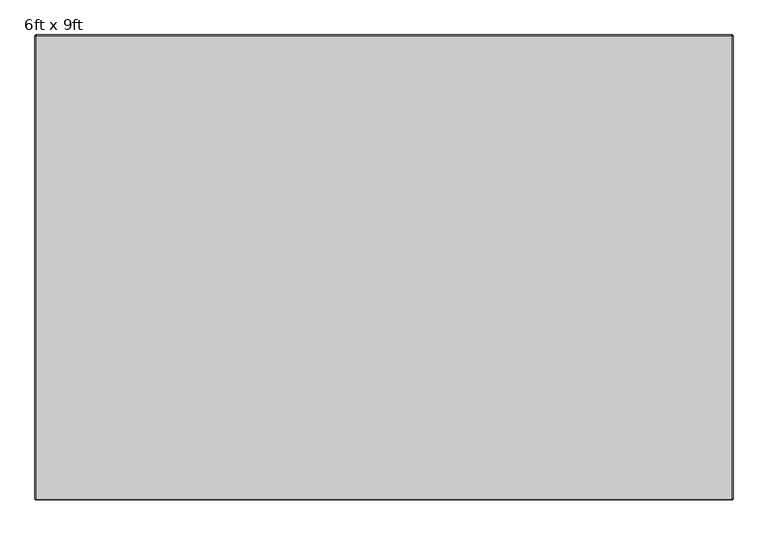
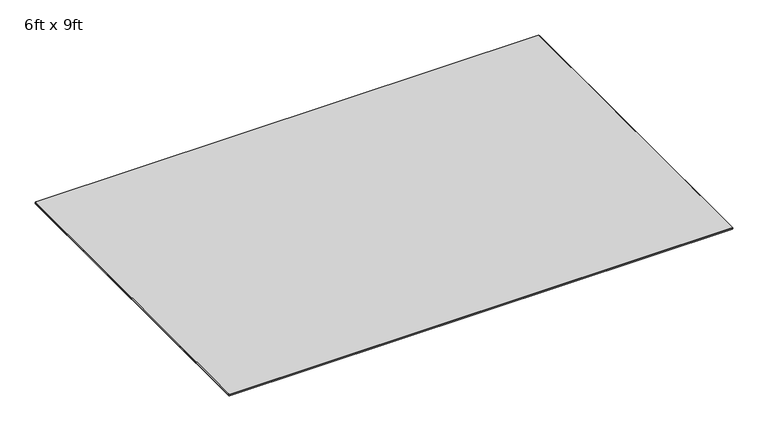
"""IFC4 building model written with IfcOpenShell, lengths in millimetres: furniture geometry, Coalesse_AM_Accessory_Rug_Nanimarquina_Diagonal : 6ft x 9ft."""

from ifc_helpers import new_model, si_unit, frame, origin, place, context, project, spatial, polyline, circle_curve, source, transform, mapped, element, save
from ifc_brep_helpers import plane_surface, cylinder_surface, revolved_surface, advanced_brep


def furniture_6ft_x_9ft_4e608421(model_context):
    return source(origin(), model_context, "Body", "AdvancedBrep", [
        advanced_brep(
        [(-658.8809829, 798.9249977, 6.9850002), (-661.4265124, 796.3794681, 6.9850002), (-661.4265124, -1022.2550023, 6.9850002), (-658.8865124, -1024.7950023, 6.9850002), (2074.1533713, -1024.7950023, 6.9850002), (2076.6933713, -1022.2550023, 6.9850002), (2076.6933713, 796.3849977, 6.9850002), (2074.1533713, 798.9249977, 6.9850002), (-663.9665124, 796.3794681, 4.4450002), (-658.8809829, 801.4649977, 4.4450002), (-658.8809829, 801.4649977, 0.0), (-663.9665124, 796.3794681, 0.0), (-663.9665124, -1022.2550023, 0.0), (-663.9665124, -1022.2550023, 4.4450002), (-658.8865124, -1027.3350023, 0.0), (-658.8865124, -1027.3350023, 4.4450002), (2074.1533713, -1027.3350023, 0.0), (2074.1533713, -1027.3350023, 4.4450002), (2079.2333713, -1022.2550023, 0.0), (2079.2333713, -1022.2550023, 4.4450002), (2079.2333713, 796.3849977, 0.0), (2079.2333713, 796.3849977, 4.4450002), (2074.1533713, 801.4649977, 0.0), (2074.1533713, 801.4649977, 4.4450002)],
        [
            (0, 1, circle_curve(frame((-658.8809829, 796.3794681, 6.9850002), z_axis=(0.0, 0.0, 1.0), x_axis=(0.0, 1.0, 0.0)), 2.5455296)),
            (1, 2),
            (2, 3, circle_curve(frame((-658.8865124, -1022.2550023, 6.9850002), z_axis=(0.0, 0.0, 1.0), x_axis=(-1.0, 0.0, 0.0)), 2.54)),
            (3, 4),
            (4, 5, circle_curve(frame((2074.1533713, -1022.2550023, 6.9850002), z_axis=(0.0, 0.0, 1.0), x_axis=(0.0, -1.0, 0.0)), 2.54)),
            (5, 6),
            (6, 7, circle_curve(frame((2074.1533713, 796.3849977, 6.9850002), z_axis=(0.0, 0.0, 1.0), x_axis=(1.0, 0.0, 0.0)), 2.54)),
            (7, 0),
            (8, 9, circle_curve(frame((-658.8809829, 796.3794681, 4.4450002), z_axis=(0.0, 0.0, -1.0), x_axis=(0.0, 1.0, 0.0)), 5.0855296)),
            (9, 10),
            (10, 11, circle_curve(frame((-658.8809829, 796.3794681, 0.0), z_axis=(0.0, 0.0, 1.0), x_axis=(0.0, 1.0, 0.0)), 5.0855296)),
            (11, 8),
            (8, 1),
            (0, 9),
            (11, 12),
            (12, 13),
            (13, 8),
            (13, 2),
            (12, 14, circle_curve(frame((-658.8865124, -1022.2550023, 0.0), z_axis=(0.0, 0.0, 1.0), x_axis=(-1.0, 0.0, 0.0)), 5.08)),
            (14, 15),
            (15, 13, circle_curve(frame((-658.8865124, -1022.2550023, 4.4450002), z_axis=(0.0, 0.0, -1.0), x_axis=(-1.0, 0.0, 0.0)), 5.08)),
            (15, 3),
            (14, 16),
            (16, 17),
            (17, 15),
            (17, 4),
            (16, 18, circle_curve(frame((2074.1533713, -1022.2550023, 0.0), z_axis=(0.0, 0.0, 1.0), x_axis=(0.0, -1.0, 0.0)), 5.08)),
            (18, 19),
            (19, 17, circle_curve(frame((2074.1533713, -1022.2550023, 4.4450002), z_axis=(0.0, 0.0, -1.0), x_axis=(0.0, -1.0, 0.0)), 5.08)),
            (19, 5),
            (18, 20),
            (20, 21),
            (21, 19),
            (21, 6),
            (20, 22, circle_curve(frame((2074.1533713, 796.3849977, 0.0), z_axis=(0.0, 0.0, 1.0), x_axis=(1.0, 0.0, 0.0)), 5.08)),
            (22, 23),
            (23, 21, circle_curve(frame((2074.1533713, 796.3849977, 4.4450002), z_axis=(0.0, 0.0, -1.0), x_axis=(1.0, 0.0, 0.0)), 5.08)),
            (23, 7),
            (10, 22),
            (9, 23),
        ],
        [
            plane_surface(frame((-658.8809829, 798.9249977, 6.9850002), z_axis=(0.0, 0.0, 1.0), x_axis=(-1.0, 0.0, 0.0))),
            cylinder_surface(frame((-658.8809829, 796.3794681, 0.0), z_axis=(0.0, 0.0, 1.0), x_axis=(0.0, 1.0, 0.0)), 5.0855296),
            revolved_surface(polyline([(-658.8809829, 801.4649977, 4.4450002), (-658.8809829, 798.9249977, 6.9850002)]), (-658.8809829, 796.3794681, 0.0), (0.0, 0.0, 1.0)),
            plane_surface(frame((-663.9665124, 796.3794681, 0.0), z_axis=(-1.0, 0.0, 0.0), x_axis=(0.0, -1.0, 0.0))),
            plane_surface(frame((-663.9665124, 796.3794681, 4.4450002), z_axis=(-0.7071067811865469, 0.0, 0.7071067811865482), x_axis=(0.0, -1.0, 0.0))),
            cylinder_surface(frame((-658.8865124, -1022.2550023, 0.0), z_axis=(0.0, 0.0, 1.0), x_axis=(-1.0, 0.0, 0.0)), 5.08),
            revolved_surface(polyline([(-663.9665124, -1022.2550023, 4.4450002), (-661.4265124, -1022.2550023, 6.9850002)]), (-658.8865124, -1022.2550023, 0.0), (0.0, 0.0, 1.0)),
            plane_surface(frame((-658.8865124, -1027.3350023, 0.0), z_axis=(0.0, -1.0, 0.0), x_axis=(1.0, 0.0, 0.0))),
            plane_surface(frame((-658.8865124, -1027.3350023, 4.4450002), z_axis=(0.0, -0.7071067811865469, 0.7071067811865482), x_axis=(1.0, 0.0, 0.0))),
            cylinder_surface(frame((2074.1533713, -1022.2550023, 0.0), z_axis=(0.0, 0.0, 1.0), x_axis=(0.0, -1.0, 0.0)), 5.08),
            revolved_surface(polyline([(2074.1533713, -1027.3350023, 4.4450002), (2074.1533713, -1024.7950023, 6.9850002)]), (2074.1533713, -1022.2550023, 0.0), (0.0, 0.0, 1.0)),
            plane_surface(frame((2079.2333713, -1022.2550023, 0.0), z_axis=(1.0, 0.0, 0.0), x_axis=(0.0, 1.0, 0.0))),
            plane_surface(frame((2079.2333713, -1022.2550023, 4.4450002), z_axis=(0.7071067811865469, 0.0, 0.7071067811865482), x_axis=(0.0, 1.0, 0.0))),
            cylinder_surface(frame((2074.1533713, 796.3849977, 0.0), z_axis=(0.0, 0.0, 1.0), x_axis=(1.0, 0.0, 0.0)), 5.08),
            revolved_surface(polyline([(2079.2333713, 796.3849977, 4.4450002), (2076.6933713, 796.3849977, 6.9850002)]), (2074.1533713, 796.3849977, 0.0), (0.0, 0.0, 1.0)),
            plane_surface(frame((2074.1533713, 798.9249977, 0.0), z_axis=(0.0, 0.0, -1.0), x_axis=(-1.0, 0.0, 0.0))),
            plane_surface(frame((2074.1533713, 801.4649977, 0.0), z_axis=(0.0, 1.0, 0.0), x_axis=(-1.0, 0.0, 0.0))),
            plane_surface(frame((2074.1533713, 801.4649977, 4.4450002), z_axis=(0.0, 0.7071067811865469, 0.7071067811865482), x_axis=(-1.0, 0.0, 0.0))),
        ],
        [
            (0, [[1, 2, 3, 4, 5, 6, 7, 8]]),
            (1, [[9, 10, 11, 12]]),
            (2, [[-9, 13, -1, 14]]),
            (3, [[-12, 15, 16, 17]]),
            (4, [[-13, -17, 18, -2]]),
            (5, [[-16, 19, 20, 21]]),
            (6, [[-18, -21, 22, -3]]),
            (7, [[-20, 23, 24, 25]]),
            (8, [[-22, -25, 26, -4]]),
            (9, [[-24, 27, 28, 29]]),
            (10, [[-26, -29, 30, -5]]),
            (11, [[-28, 31, 32, 33]]),
            (12, [[-30, -33, 34, -6]]),
            (13, [[-32, 35, 36, 37]]),
            (14, [[-34, -37, 38, -7]]),
            (15, [[-11, 39, -35, -31, -27, -23, -19, -15]]),
            (16, [[-10, 40, -36, -39]]),
            (17, [[-14, -8, -38, -40]]),
        ],
    ),
    ])


if __name__ == "__main__":
    model = new_model("IFC4")
    model_context = context("Model", 3, world=origin())
    ifc_project = project(units=[si_unit("LENGTHUNIT", "METRE", prefix="MILLI")], contexts=[model_context])
    site = spatial("IfcSite", under=ifc_project)
    building = spatial("IfcBuilding", under=site)
    placement = place(None, origin())
    furniture_6ft_x_9ft_shape = furniture_6ft_x_9ft_4e608421(model_context)
    element("IfcFurniture", 1, ObjectType="Coalesse_AM_Accessory_Rug_Nanimarquina_Diagonal : 6ft x 9ft", at=placement, inside=building, context=model_context, shape_type="MappedRepresentation", body=[
        mapped(furniture_6ft_x_9ft_shape, transform((0.0, 0.0, 0.0), x_axis=(1.0, 0.0, 0.0), y_axis=(0.0, 1.0, 0.0), z_axis=(0.0, 0.0, 1.0))),
    ])
    save(model, "model.ifc")
